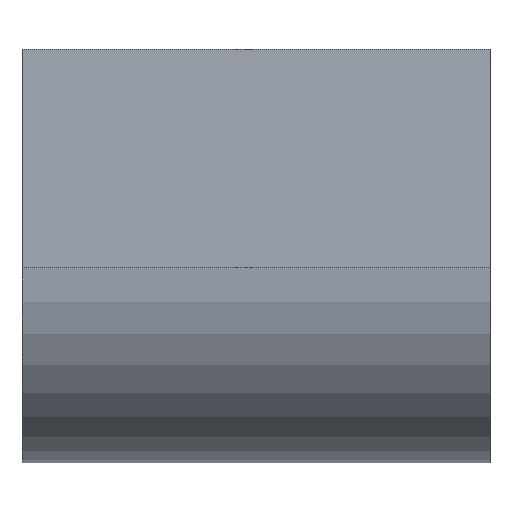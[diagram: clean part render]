
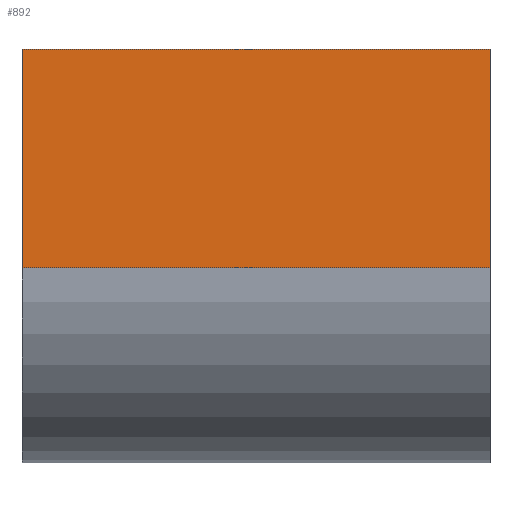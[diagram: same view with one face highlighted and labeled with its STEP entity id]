
A CAD part, front view. The second image highlights one B-rep face of the part: STEP entity #892.
In plain terms, the highlighted planar face has unit normal (0, -1, 0).
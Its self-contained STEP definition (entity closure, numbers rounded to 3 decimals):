
#4 = AXIS2_PLACEMENT_3D ( 'NONE', #291, #149, #157 ) ;
#5 = LINE ( 'NONE', #389, #57 ) ;
#24 = CARTESIAN_POINT ( 'NONE',  ( 150., -100., 0. ) ) ;
#38 = ORIENTED_EDGE ( 'NONE', *, *, #1497, .F. ) ;
#46 = CARTESIAN_POINT ( 'NONE',  ( 150., -100., 0. ) ) ;
#57 = VECTOR ( 'NONE', #906, 1000. ) ;
#95 = VERTEX_POINT ( 'NONE', #810 ) ;
#112 = VECTOR ( 'NONE', #414, 1000. ) ;
#122 = PLANE ( 'NONE',  #4 ) ;
#149 = DIRECTION ( 'NONE',  ( 0., 1., 0. ) ) ;
#157 = DIRECTION ( 'NONE',  ( 0., 0., 1. ) ) ;
#202 = VECTOR ( 'NONE', #1595, 1000. ) ;
#291 = CARTESIAN_POINT ( 'NONE',  ( 150., -100., -140. ) ) ;
#389 = CARTESIAN_POINT ( 'NONE',  ( 150., -100., -140. ) ) ;
#414 = DIRECTION ( 'NONE',  ( 0., 0., -1. ) ) ;
#415 = EDGE_CURVE ( 'NONE', #1107, #95, #1666, .T. ) ;
#436 = EDGE_CURVE ( 'NONE', #958, #1466, #5, .T. ) ;
#437 = ORIENTED_EDGE ( 'NONE', *, *, #1368, .T. ) ;
#450 = ORIENTED_EDGE ( 'NONE', *, *, #415, .T. ) ;
#508 = VECTOR ( 'NONE', #1513, 1000. ) ;
#516 = CARTESIAN_POINT ( 'NONE',  ( -150., -100., -140. ) ) ;
#740 = ORIENTED_EDGE ( 'NONE', *, *, #436, .F. ) ;
#750 = LINE ( 'NONE', #1243, #508 ) ;
#810 = CARTESIAN_POINT ( 'NONE',  ( -150., -100., -140. ) ) ;
#892 = ADVANCED_FACE ( 'NONE', ( #1417 ), #122, .F. ) ;
#906 = DIRECTION ( 'NONE',  ( 0., 0., -1. ) ) ;
#958 = VERTEX_POINT ( 'NONE', #46 ) ;
#1090 = LINE ( 'NONE', #24, #202 ) ;
#1107 = VERTEX_POINT ( 'NONE', #1641 ) ;
#1243 = CARTESIAN_POINT ( 'NONE',  ( 150., -100., -140. ) ) ;
#1368 = EDGE_CURVE ( 'NONE', #958, #1107, #1090, .T. ) ;
#1388 = EDGE_LOOP ( 'NONE', ( #450, #38, #740, #437 ) ) ;
#1402 = CARTESIAN_POINT ( 'NONE',  ( 150., -100., -140. ) ) ;
#1417 = FACE_OUTER_BOUND ( 'NONE', #1388, .T. ) ;
#1466 = VERTEX_POINT ( 'NONE', #1402 ) ;
#1497 = EDGE_CURVE ( 'NONE', #1466, #95, #750, .T. ) ;
#1513 = DIRECTION ( 'NONE',  ( -1., 0., 0. ) ) ;
#1595 = DIRECTION ( 'NONE',  ( -1., 0., 0. ) ) ;
#1641 = CARTESIAN_POINT ( 'NONE',  ( -150., -100., 0. ) ) ;
#1666 = LINE ( 'NONE', #516, #112 ) ;
